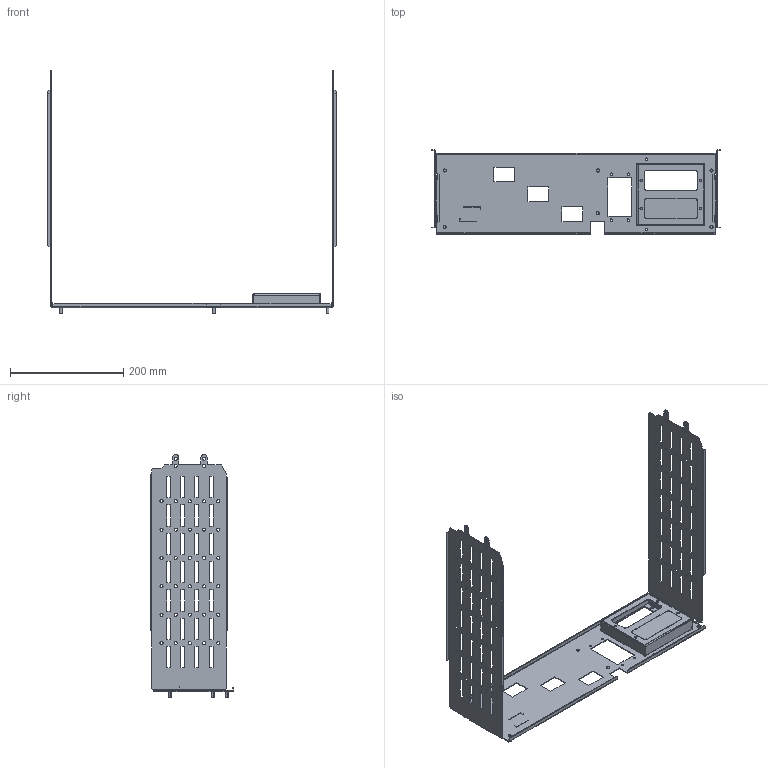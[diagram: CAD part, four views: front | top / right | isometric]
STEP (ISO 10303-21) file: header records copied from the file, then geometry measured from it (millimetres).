
FILE_DESCRIPTION(('CAx-IF Rec.Pracs.---Model Styling and Organization---1.2---2011-12-15','CAx-IF Rec.Pracs.---Geometric and Assembly Validation Properties---4.1---2014-06-16','CAx-IF Rec.Pracs.---PMI Polyline Presentation---2.0---2013-05-24'),'2;1');
FILE_NAME('R5M2W3M1A21.stp','2021-05-05T12:10:46+03:00',(''),(''),'STEP Interface 4.4 by CT CoreTechnologie','3D_Evolution4.4 by CT CoreTechnologie','');
FILE_SCHEMA(('AUTOMOTIVE_DESIGN { 1 0 10303 214 1 1 1 1 }'));
Length unit declared in the file: millimetre
Products named in the file (6): R5M2W3M1A21; M5x8-DIN7500C_stright; RB.1285.00.00.0_-06; RB.1285.00.00.0_-07; RB.1257.00.00.0_-01; RB.1568.00.00.0_-00
Assembly tree (14 placements, depth 2):
  R5M2W3M1A21
    M5x8-DIN7500C_stright  x10
    RB.1285.00.00.0_-06
    RB.1285.00.00.0_-07
    RB.1257.00.00.0_-01
    RB.1568.00.00.0_-00
Bounding box: 510 x 147.5 x 428.6 mm (x, y, z)
Surface area: 371409.5 mm2 (no closed solid volume)
Topology: 0 solids, 16 shells, 768 faces, 2195 edges, 1451 vertices
Faces by surface type: plane 486, cylinder 274, bspline 8
Entity records: 25562 total; most frequent: CARTESIAN_POINT 4629, ORIENTED_EDGE 4282, DIRECTION 4111, EDGE_CURVE 2141, VECTOR 1621, LINE 1621, VERTEX_POINT 1415, AXIS2_PLACEMENT_3D 1245
